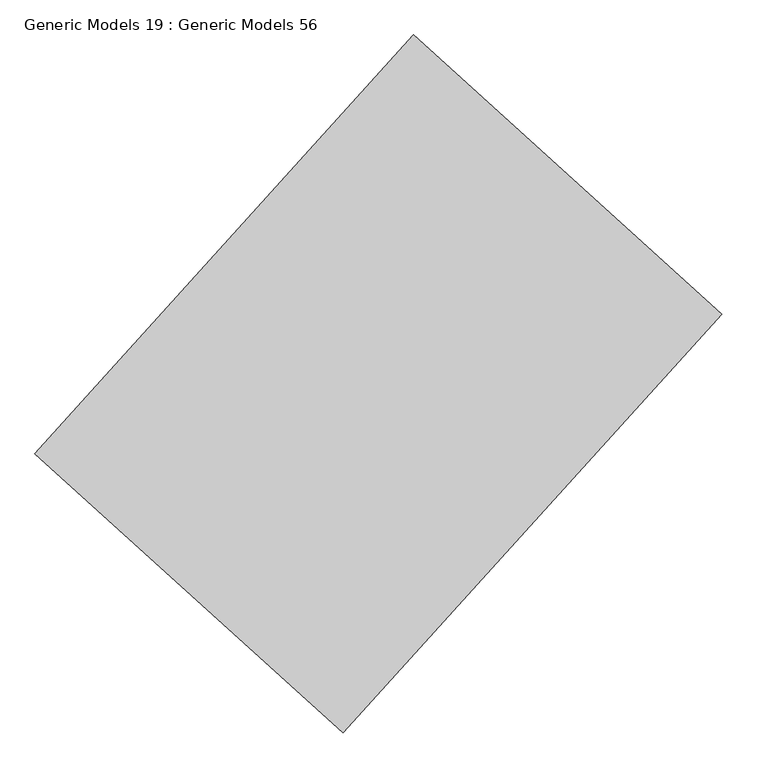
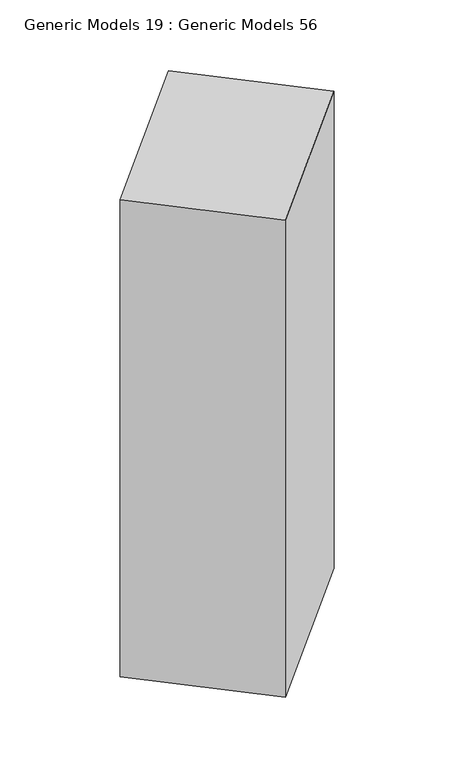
"""IFC4 building model written with IfcOpenShell, lengths in millimetres: proxy geometry, Generic Models 19 : Generic Models 56."""

from ifc_helpers import new_model, si_unit, frame, origin, place, context, project, spatial, polyline, outline, extrude, source, transform, mapped, element, save


def generic_models_19_generic_models_56_12b5e932(model_context):
    return source(origin(), model_context, "Body", "SweptSolid", [
        extrude(outline(polyline([(-7044.9657632, -1398.5840936), (-6602.6741999, -1799.0672988), (-7146.1730068, -2399.3045468), (-7588.4645701, -1998.8213417), (-7044.9657632, -1398.5840936)])), frame((0.0, 0.0, -50.0), z_axis=(0.0, 0.0, 1.0), x_axis=(1.0, 0.0, 0.0)), (0.0, 0.0, 1.0), 2050.0),
    ])


if __name__ == "__main__":
    model = new_model("IFC4")
    model_context = context("Model", 3, world=origin())
    ifc_project = project(units=[si_unit("LENGTHUNIT", "METRE", prefix="MILLI")], contexts=[model_context])
    site = spatial("IfcSite", under=ifc_project)
    building = spatial("IfcBuilding", under=site)
    placement = place(None, origin())
    generic_models_19_generic_models_56_shape = generic_models_19_generic_models_56_12b5e932(model_context)
    element("IfcBuildingElementProxy", 1, Name="Generic Models 19 : Generic Models 56", ObjectType="Generic Models 19 : Generic Models 56", at=placement, inside=building, context=model_context, shape_type="MappedRepresentation", body=[
        mapped(generic_models_19_generic_models_56_shape, transform((0.0, 0.0, 0.0), x_axis=(1.0, 0.0, 0.0), y_axis=(0.0, 1.0, 0.0), z_axis=(0.0, 0.0, 1.0))),
    ])
    save(model, "model.ifc")
